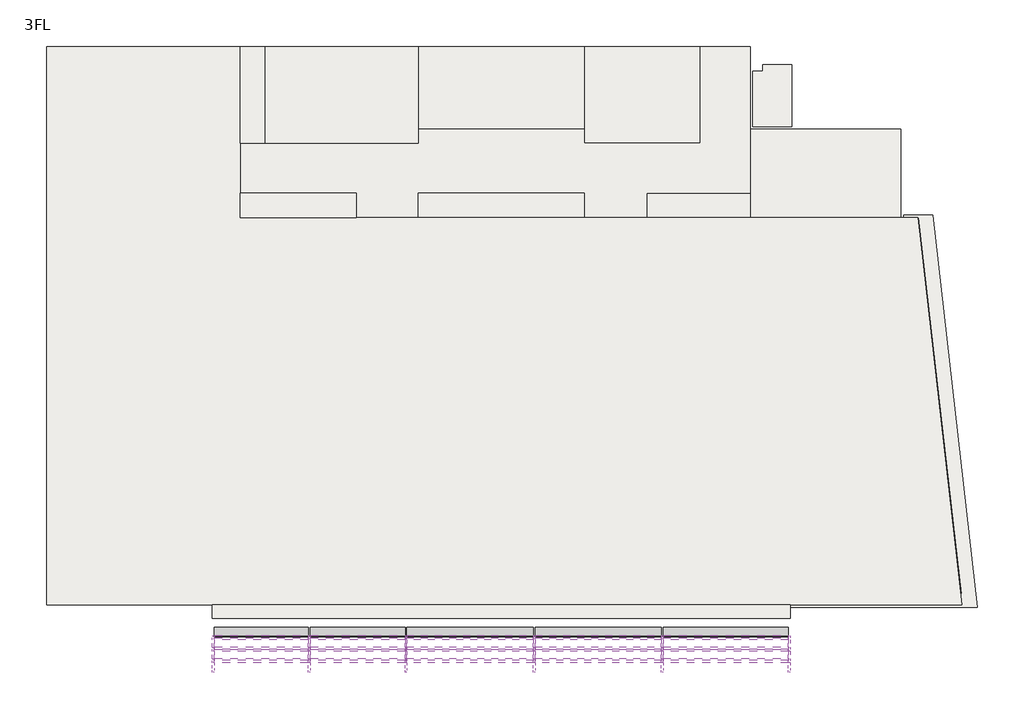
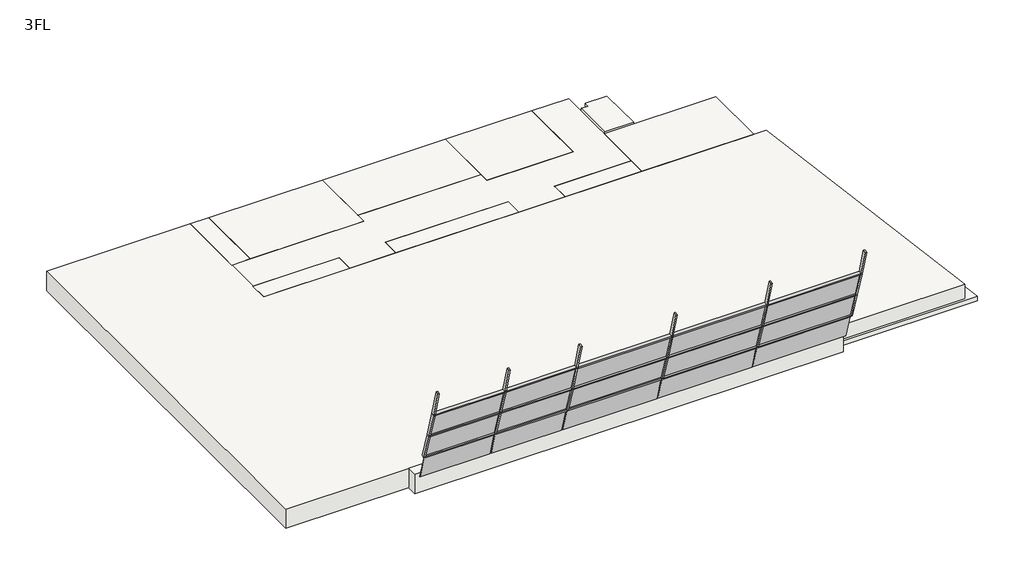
# One storey: 33 members, 15 plates, 13 slabs.
"""IFC4 building model written with IfcOpenShell, lengths in millimetres."""

from ifc_helpers import new_model, si_unit, frame, origin, place, context, project, spatial, polyline, outline, extrude, transform, mapped, element, save
from components import member_70x150_4d24a05e, member_70x150_d36ba8ce, member_70x150_5c89d520, member_70x150_7418113c, member_70x150_b238a0a5, member_70x150_db9f7753, member_70x150_c1e71303, member_70x150_36418c2b, member_70x150_2ddcd813, member_70x150_37ae0d1a, member_70x150_6c5de3ba, member_70x150_d2bbf5bb, member_70x150_c7beafc3, plate_c2116086, plate_b5ac0942, plate_1e6d37a2, plate_2c6e092e, plate_fbfa9490, plate_022f3ca5, plate_2dcaf8a6, plate_149d2ef8, plate_d77b17ee, plate_d9441ac2, plate_135fa1a3, plate_b12108fd

model = new_model("IFC4")

# Units and contexts
model_context = context("Model", 3, world=origin())
ifc_project = project(units=[si_unit("LENGTHUNIT", "METRE", prefix="MILLI")], contexts=[model_context])

# Site, building, storey
site = spatial("IfcSite", under=ifc_project)
building = spatial("IfcBuilding", under=site)
storey = spatial("IfcBuildingStorey", under=building, Name="3FL", Elevation=8600.0)

# Members
placement = place(None, origin())
member_70x150_shape = member_70x150_4d24a05e(model_context)
element("IfcMember", 1, ObjectType="長方形のマリオン : 70x150", at=placement, inside=storey, context=model_context, shape_type="MappedRepresentation", body=[
    mapped(member_70x150_shape, transform((-2015.9784025, -5575.0868522, 12600.0), x_axis=(0.0, -0.2812751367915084, 0.9596271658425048), y_axis=(0.0, -0.9596271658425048, -0.2812751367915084), z_axis=(1.0, 0.0, 0.0))),
])
element("IfcMember", 2, ObjectType="長方形のマリオン : 70x150", at=placement, inside=storey, context=model_context, shape_type="MappedRepresentation", body=[
    mapped(member_70x150_shape, transform((-2015.9784025, -5165.0327615, 11266.1765137), x_axis=(0.0, -0.3013501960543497, 0.9535135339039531), y_axis=(0.0, -0.9535135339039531, -0.3013501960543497), z_axis=(1.0, 0.0, 0.0))),
])
element("IfcMember", 3, ObjectType="長方形のマリオン : 70x150", at=placement, inside=storey, context=model_context, shape_type="MappedRepresentation", body=[
    mapped(member_70x150_shape, transform((-2015.9784025, -4747.2730575, 9932.5590727), x_axis=(0.0, -0.29152128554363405, 0.9565643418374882), y_axis=(0.0, -0.9565643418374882, -0.29152128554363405), z_axis=(1.0, 0.0, 0.0))),
])
member_70x150_2_shape = member_70x150_d36ba8ce(model_context)
element("IfcMember", 4, ObjectType="長方形のマリオン : 70x150", at=placement, inside=storey, context=model_context, shape_type="MappedRepresentation", body=[
    mapped(member_70x150_2_shape, transform((-19380.9784025, -5575.0868522, 12600.0), x_axis=(0.0, -0.28127513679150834, 0.9596271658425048), y_axis=(0.0, -0.9596271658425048, -0.28127513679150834), z_axis=(1.0, 0.0, 0.0))),
])
element("IfcMember", 5, ObjectType="長方形のマリオン : 70x150", at=placement, inside=storey, context=model_context, shape_type="MappedRepresentation", body=[
    mapped(member_70x150_2_shape, transform((-19380.9784025, -4747.2730575, 9932.5590727), x_axis=(0.0, -0.291521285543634, 0.9565643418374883), y_axis=(0.0, -0.9565643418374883, -0.291521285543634), z_axis=(1.0, 0.0, 0.0))),
])
element("IfcMember", 6, ObjectType="長方形のマリオン : 70x150", at=placement, inside=storey, context=model_context, shape_type="MappedRepresentation", body=[
    mapped(member_70x150_2_shape, transform((-19380.9784025, -5165.0327615, 11266.1765137), x_axis=(0.0, -0.30135019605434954, 0.9535135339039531), y_axis=(0.0, -0.9535135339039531, -0.30135019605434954), z_axis=(1.0, 0.0, 0.0))),
])
member_70x150_3_shape = member_70x150_5c89d520(model_context)
element("IfcMember", 7, ObjectType="長方形のマリオン : 70x150", at=placement, inside=storey, context=model_context, shape_type="MappedRepresentation", body=[
    mapped(member_70x150_3_shape, transform((-11247.6450692, -5575.0868522, 12600.0), x_axis=(0.0, -0.2812751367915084, 0.9596271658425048), y_axis=(0.0, -0.9596271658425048, -0.2812751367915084), z_axis=(1.0, 0.0, 0.0))),
])
element("IfcMember", 8, ObjectType="長方形のマリオン : 70x150", at=placement, inside=storey, context=model_context, shape_type="MappedRepresentation", body=[
    mapped(member_70x150_3_shape, transform((-6614.3117358, -5575.0868522, 12600.0), x_axis=(0.0, -0.2812751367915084, 0.9596271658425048), y_axis=(0.0, -0.9596271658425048, -0.2812751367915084), z_axis=(1.0, 0.0, 0.0))),
])
element("IfcMember", 9, ObjectType="長方形のマリオン : 70x150", at=placement, inside=storey, context=model_context, shape_type="MappedRepresentation", body=[
    mapped(member_70x150_3_shape, transform((-6614.3117358, -4747.2730575, 9932.5590727), x_axis=(0.0, -0.29152128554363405, 0.9565643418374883), y_axis=(0.0, -0.9565643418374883, -0.29152128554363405), z_axis=(1.0, 0.0, 0.0))),
])
element("IfcMember", 10, ObjectType="長方形のマリオン : 70x150", at=placement, inside=storey, context=model_context, shape_type="MappedRepresentation", body=[
    mapped(member_70x150_3_shape, transform((-11247.6450692, -4747.2730575, 9932.5590727), x_axis=(0.0, -0.29152128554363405, 0.9565643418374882), y_axis=(0.0, -0.9565643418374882, -0.29152128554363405), z_axis=(1.0, 0.0, 0.0))),
])
element("IfcMember", 11, ObjectType="長方形のマリオン : 70x150", at=placement, inside=storey, context=model_context, shape_type="MappedRepresentation", body=[
    mapped(member_70x150_3_shape, transform((-6614.3117358, -5165.0327615, 11266.1765137), x_axis=(0.0, -0.3013501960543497, 0.9535135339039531), y_axis=(0.0, -0.9535135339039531, -0.3013501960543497), z_axis=(1.0, 0.0, 0.0))),
])
element("IfcMember", 12, ObjectType="長方形のマリオン : 70x150", at=placement, inside=storey, context=model_context, shape_type="MappedRepresentation", body=[
    mapped(member_70x150_3_shape, transform((-11247.6450692, -5165.0327615, 11266.1765137), x_axis=(0.0, -0.30135019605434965, 0.9535135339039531), y_axis=(0.0, -0.9535135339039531, -0.30135019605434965), z_axis=(1.0, 0.0, 0.0))),
])
member_70x150_4_shape = member_70x150_7418113c(model_context)
element("IfcMember", 13, ObjectType="長方形のマリオン : 70x150", at=placement, inside=storey, context=model_context, shape_type="MappedRepresentation", body=[
    mapped(member_70x150_4_shape, transform((-15880.9784025, -5575.0868522, 12600.0), x_axis=(0.0, -0.28127513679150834, 0.9596271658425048), y_axis=(0.0, -0.9596271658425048, -0.28127513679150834), z_axis=(1.0, 0.0, 0.0))),
])
element("IfcMember", 14, ObjectType="長方形のマリオン : 70x150", at=placement, inside=storey, context=model_context, shape_type="MappedRepresentation", body=[
    mapped(member_70x150_4_shape, transform((-15880.9784025, -4747.2730575, 9932.5590727), x_axis=(0.0, -0.29152128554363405, 0.9565643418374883), y_axis=(0.0, -0.9565643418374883, -0.29152128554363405), z_axis=(1.0, 0.0, 0.0))),
])
element("IfcMember", 15, ObjectType="長方形のマリオン : 70x150", at=placement, inside=storey, context=model_context, shape_type="MappedRepresentation", body=[
    mapped(member_70x150_4_shape, transform((-15880.9784025, -5165.0327615, 11266.1765137), x_axis=(0.0, -0.30135019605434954, 0.9535135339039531), y_axis=(0.0, -0.9535135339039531, -0.30135019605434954), z_axis=(1.0, 0.0, 0.0))),
])
member_70x150_5_shape = member_70x150_b238a0a5(model_context)
element("IfcMember", 16, ObjectType="長方形のマリオン : 70x150", at=placement, inside=storey, context=model_context, shape_type="MappedRepresentation", body=[
    mapped(member_70x150_5_shape, transform((-15845.9784025, -5575.0868522, 12600.0), x_axis=(1.0, 0.0, 0.0), y_axis=(0.0, -0.9660766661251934, -0.2582554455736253), z_axis=(0.0, 0.2582554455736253, -0.9660766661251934))),
])
element("IfcMember", 17, ObjectType="長方形のマリオン : 70x150", at=placement, inside=storey, context=model_context, shape_type="MappedRepresentation", body=[
    mapped(member_70x150_5_shape, transform((-6579.3117358, -5575.0868522, 12600.0), x_axis=(1.0, 0.0, 0.0), y_axis=(0.0, -0.9660766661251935, -0.2582554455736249), z_axis=(0.0, 0.25825544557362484, -0.9660766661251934))),
])
element("IfcMember", 18, ObjectType="長方形のマリオン : 70x150", at=placement, inside=storey, context=model_context, shape_type="MappedRepresentation", body=[
    mapped(member_70x150_5_shape, transform((-11212.6450692, -5575.0868522, 12600.0), x_axis=(1.0, 0.0, 0.0), y_axis=(0.0, -0.9660766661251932, -0.258255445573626), z_axis=(0.0, 0.258255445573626, -0.9660766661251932))),
])
element("IfcMember", 19, ObjectType="長方形のマリオン : 70x150", at=placement, inside=storey, context=model_context, shape_type="MappedRepresentation", body=[
    mapped(member_70x150_5_shape, transform((-19345.9784025, -5575.0868522, 12600.0), x_axis=(1.0, 0.0, 0.0), y_axis=(0.0, -0.9660766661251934, -0.2582554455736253), z_axis=(0.0, 0.2582554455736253, -0.9660766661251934))),
])
member_70x150_6_shape = member_70x150_db9f7753(model_context)
element("IfcMember", 20, ObjectType="長方形のマリオン : 70x150", at=placement, inside=storey, context=model_context, shape_type="MappedRepresentation", body=[
    mapped(member_70x150_6_shape, transform((-1945.9784025, -4747.2730575, 9932.5590727), x_axis=(1.0, 0.0, 0.0), y_axis=(0.0, -0.9542751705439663, -0.2989295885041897), z_axis=(0.0, 0.29892958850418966, -0.9542751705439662))),
])
member_70x150_7_shape = member_70x150_c1e71303(model_context)
element("IfcMember", 21, ObjectType="長方形のマリオン : 70x150", at=placement, inside=storey, context=model_context, shape_type="MappedRepresentation", body=[
    mapped(member_70x150_7_shape, transform((-1945.9784025, -5165.0327615, 11266.1765137), x_axis=(1.0, 0.0, 0.0), y_axis=(0.0, -0.9558501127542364, -0.29385466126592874), z_axis=(0.0, 0.2938546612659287, -0.9558501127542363))),
])
member_70x150_8_shape = member_70x150_36418c2b(model_context)
element("IfcMember", 22, ObjectType="長方形のマリオン : 70x150", at=placement, inside=storey, context=model_context, shape_type="MappedRepresentation", body=[
    mapped(member_70x150_8_shape, transform((-22845.9784025, -5575.0868522, 12600.0), x_axis=(-1.0, 0.0, 0.0), y_axis=(0.0, -0.9558501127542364, -0.29385466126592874), z_axis=(0.0, -0.2938546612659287, 0.9558501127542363))),
])
member_70x150_9_shape = member_70x150_2ddcd813(model_context)
element("IfcMember", 23, ObjectType="長方形のマリオン : 70x150", at=placement, inside=storey, context=model_context, shape_type="MappedRepresentation", body=[
    mapped(member_70x150_9_shape, transform((-1945.9784025, -5575.0868522, 12600.0), x_axis=(1.0, 0.0, 0.0), y_axis=(0.0, -0.9660766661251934, -0.2582554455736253), z_axis=(0.0, 0.2582554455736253, -0.9660766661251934))),
])
member_70x150_10_shape = member_70x150_37ae0d1a(model_context)
element("IfcMember", 24, ObjectType="長方形のマリオン : 70x150", at=placement, inside=storey, context=model_context, shape_type="MappedRepresentation", body=[
    mapped(member_70x150_10_shape, transform((-22845.9784025, -5165.0327615, 11266.1765137), x_axis=(-1.0, 0.0, 0.0), y_axis=(0.0, -0.9542751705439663, -0.2989295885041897), z_axis=(0.0, -0.29892958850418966, 0.9542751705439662))),
])
member_70x150_11_shape = member_70x150_6c5de3ba(model_context)
element("IfcMember", 25, ObjectType="長方形のマリオン : 70x150", at=placement, inside=storey, context=model_context, shape_type="MappedRepresentation", body=[
    mapped(member_70x150_11_shape, transform((-22845.9784025, -5931.9972221, 13935.1229806), x_axis=(-1.0, 0.0, 0.0), y_axis=(0.0, -0.9660766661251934, -0.2582554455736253), z_axis=(0.0, -0.2582554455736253, 0.9660766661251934))),
])
member_70x150_12_shape = member_70x150_d2bbf5bb(model_context)
element("IfcMember", 26, ObjectType="長方形のマリオン : 70x150", at=placement, inside=storey, context=model_context, shape_type="MappedRepresentation", body=[
    mapped(member_70x150_12_shape, transform((-6579.3117358, -4747.2730575, 9932.5590727), x_axis=(1.0, 0.0, 0.0), y_axis=(0.0, -0.9542751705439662, -0.29892958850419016), z_axis=(0.0, 0.2989295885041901, -0.954275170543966))),
])
element("IfcMember", 27, ObjectType="長方形のマリオン : 70x150", at=placement, inside=storey, context=model_context, shape_type="MappedRepresentation", body=[
    mapped(member_70x150_12_shape, transform((-11212.6450692, -4747.2730575, 9932.5590727), x_axis=(1.0, 0.0, 0.0), y_axis=(0.0, -0.9542751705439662, -0.29892958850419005), z_axis=(0.0, 0.29892958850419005, -0.9542751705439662))),
])
element("IfcMember", 28, ObjectType="長方形のマリオン : 70x150", at=placement, inside=storey, context=model_context, shape_type="MappedRepresentation", body=[
    mapped(member_70x150_12_shape, transform((-19345.9784025, -4747.2730575, 9932.5590727), x_axis=(1.0, 0.0, 0.0), y_axis=(0.0, -0.9542751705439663, -0.2989295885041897), z_axis=(0.0, 0.29892958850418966, -0.9542751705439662))),
])
element("IfcMember", 29, ObjectType="長方形のマリオン : 70x150", at=placement, inside=storey, context=model_context, shape_type="MappedRepresentation", body=[
    mapped(member_70x150_12_shape, transform((-15845.9784025, -4747.2730575, 9932.5590727), x_axis=(1.0, 0.0, 0.0), y_axis=(0.0, -0.9542751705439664, -0.2989295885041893), z_axis=(0.0, 0.2989295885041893, -0.9542751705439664))),
])
member_70x150_13_shape = member_70x150_c7beafc3(model_context)
element("IfcMember", 30, ObjectType="長方形のマリオン : 70x150", at=placement, inside=storey, context=model_context, shape_type="MappedRepresentation", body=[
    mapped(member_70x150_13_shape, transform((-6579.3117358, -5165.0327615, 11266.1765137), x_axis=(1.0, 0.0, 0.0), y_axis=(0.0, -0.9558501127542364, -0.29385466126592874), z_axis=(0.0, 0.2938546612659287, -0.9558501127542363))),
])
element("IfcMember", 31, ObjectType="長方形のマリオン : 70x150", at=placement, inside=storey, context=model_context, shape_type="MappedRepresentation", body=[
    mapped(member_70x150_13_shape, transform((-11212.6450692, -5165.0327615, 11266.1765137), x_axis=(1.0, 0.0, 0.0), y_axis=(0.0, -0.9558501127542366, -0.293854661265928), z_axis=(0.0, 0.293854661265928, -0.9558501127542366))),
])
element("IfcMember", 32, ObjectType="長方形のマリオン : 70x150", at=placement, inside=storey, context=model_context, shape_type="MappedRepresentation", body=[
    mapped(member_70x150_13_shape, transform((-19345.9784025, -5165.0327615, 11266.1765137), x_axis=(1.0, 0.0, 0.0), y_axis=(0.0, -0.9558501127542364, -0.29385466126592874), z_axis=(0.0, 0.2938546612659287, -0.9558501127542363))),
])
element("IfcMember", 33, ObjectType="長方形のマリオン : 70x150", at=placement, inside=storey, context=model_context, shape_type="MappedRepresentation", body=[
    mapped(member_70x150_13_shape, transform((-15845.9784025, -5165.0327615, 11266.1765137), x_axis=(1.0, 0.0, 0.0), y_axis=(0.0, -0.9558501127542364, -0.29385466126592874), z_axis=(0.0, 0.2938546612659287, -0.9558501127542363))),
])

# Plates
plate_shape = plate_c2116086(model_context)
element("IfcPlate", 34, ObjectType="システム パネル : 標準", at=placement, inside=storey, context=model_context, shape_type="MappedRepresentation", body=[
    mapped(plate_shape, transform((-21078.4784025, -4377.2928251, 8633.6610864), x_axis=(1.0, 0.0, 0.0), y_axis=(0.0, 0.9617453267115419, 0.2739451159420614), z_axis=(0.0, -0.2739451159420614, 0.9617453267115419))),
])
plate_2_shape = plate_b5ac0942(model_context)
element("IfcPlate", 35, ObjectType="システム パネル : 標準", at=placement, inside=storey, context=model_context, shape_type="MappedRepresentation", body=[
    mapped(plate_2_shape, transform((-21078.4784025, -5175.3176747, 11299.6312676), x_axis=(1.0, 0.0, 0.0), y_axis=(0.0, 0.9558501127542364, 0.2938546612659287), z_axis=(0.0, -0.2938546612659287, 0.9558501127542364))),
])
plate_3_shape = plate_1e6d37a2(model_context)
element("IfcPlate", 36, ObjectType="システム パネル : 標準", at=placement, inside=storey, context=model_context, shape_type="MappedRepresentation", body=[
    mapped(plate_3_shape, transform((-21078.4784025, -4757.7355931, 9965.9587037), x_axis=(1.0, 0.0, 0.0), y_axis=(0.0, 0.9542751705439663, 0.2989295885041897), z_axis=(0.0, -0.2989295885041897, 0.9542751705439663))),
])
plate_4_shape = plate_2c6e092e(model_context)
element("IfcPlate", 37, ObjectType="システム パネル : 標準", at=placement, inside=storey, context=model_context, shape_type="MappedRepresentation", body=[
    mapped(plate_4_shape, transform((-13529.3117358, -4377.2928251, 8633.6610864), x_axis=(1.0, 0.0, 0.0), y_axis=(0.0, 0.961745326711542, 0.27394511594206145), z_axis=(0.0, -0.27394511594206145, 0.961745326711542))),
])
element("IfcPlate", 38, ObjectType="システム パネル : 標準", at=placement, inside=storey, context=model_context, shape_type="MappedRepresentation", body=[
    mapped(plate_4_shape, transform((-8895.9784025, -4377.2928251, 8633.6610864), x_axis=(1.0, 0.0, 0.0), y_axis=(0.0, 0.961745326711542, 0.2739451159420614), z_axis=(0.0, -0.2739451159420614, 0.961745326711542))),
])
plate_5_shape = plate_fbfa9490(model_context)
element("IfcPlate", 39, ObjectType="システム パネル : 標準", at=placement, inside=storey, context=model_context, shape_type="MappedRepresentation", body=[
    mapped(plate_5_shape, transform((-13529.3117358, -4757.7355931, 9965.9587037), x_axis=(1.0, 0.0, 0.0), y_axis=(0.0, 0.9542751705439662, 0.2989295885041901), z_axis=(0.0, -0.2989295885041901, 0.9542751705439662))),
])
element("IfcPlate", 40, ObjectType="システム パネル : 標準", at=placement, inside=storey, context=model_context, shape_type="MappedRepresentation", body=[
    mapped(plate_5_shape, transform((-8895.9784025, -4757.7355931, 9965.9587037), x_axis=(1.0, 0.0, 0.0), y_axis=(0.0, 0.9542751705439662, 0.2989295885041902), z_axis=(0.0, -0.2989295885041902, 0.9542751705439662))),
])
plate_6_shape = plate_022f3ca5(model_context)
element("IfcPlate", 41, ObjectType="システム パネル : 標準", at=placement, inside=storey, context=model_context, shape_type="MappedRepresentation", body=[
    mapped(plate_6_shape, transform((-13529.3117358, -5175.3176747, 11299.6312676), x_axis=(1.0, 0.0, 0.0), y_axis=(0.0, 0.9558501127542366, 0.293854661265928), z_axis=(0.0, -0.293854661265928, 0.9558501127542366))),
])
element("IfcPlate", 42, ObjectType="システム パネル : 標準", at=placement, inside=storey, context=model_context, shape_type="MappedRepresentation", body=[
    mapped(plate_6_shape, transform((-8895.9784025, -5175.3176747, 11299.6312676), x_axis=(1.0, 0.0, 0.0), y_axis=(0.0, 0.9558501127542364, 0.2938546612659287), z_axis=(0.0, -0.2938546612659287, 0.9558501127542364))),
])
plate_7_shape = plate_2dcaf8a6(model_context)
element("IfcPlate", 43, ObjectType="システム パネル : 標準", at=placement, inside=storey, context=model_context, shape_type="MappedRepresentation", body=[
    mapped(plate_7_shape, transform((-17595.9784025, -4377.2928251, 8633.6610864), x_axis=(1.0, 0.0, 0.0), y_axis=(0.0, 0.9617453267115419, 0.2739451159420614), z_axis=(0.0, -0.2739451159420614, 0.9617453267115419))),
])
plate_8_shape = plate_149d2ef8(model_context)
element("IfcPlate", 44, ObjectType="システム パネル : 標準", at=placement, inside=storey, context=model_context, shape_type="MappedRepresentation", body=[
    mapped(plate_8_shape, transform((-17595.9784025, -4757.7355931, 9965.9587037), x_axis=(1.0, 0.0, 0.0), y_axis=(0.0, 0.9542751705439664, 0.2989295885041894), z_axis=(0.0, -0.2989295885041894, 0.9542751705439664))),
])
plate_9_shape = plate_d77b17ee(model_context)
element("IfcPlate", 45, ObjectType="システム パネル : 標準", at=placement, inside=storey, context=model_context, shape_type="MappedRepresentation", body=[
    mapped(plate_9_shape, transform((-17595.9784025, -5175.3176747, 11299.6312676), x_axis=(1.0, 0.0, 0.0), y_axis=(0.0, 0.9558501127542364, 0.29385466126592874), z_axis=(0.0, -0.29385466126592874, 0.9558501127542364))),
])
plate_10_shape = plate_d9441ac2(model_context)
element("IfcPlate", 46, ObjectType="システム パネル : 標準", at=placement, inside=storey, context=model_context, shape_type="MappedRepresentation", body=[
    mapped(plate_10_shape, transform((-4280.1450692, -4377.2928251, 8633.6610864), x_axis=(1.0, 0.0, 0.0), y_axis=(0.0, 0.9617453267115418, 0.2739451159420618), z_axis=(0.0, -0.2739451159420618, 0.9617453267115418))),
])
plate_11_shape = plate_135fa1a3(model_context)
element("IfcPlate", 47, ObjectType="システム パネル : 標準", at=placement, inside=storey, context=model_context, shape_type="MappedRepresentation", body=[
    mapped(plate_11_shape, transform((-4280.1450692, -4757.7355931, 9965.9587037), x_axis=(1.0, 0.0, 0.0), y_axis=(0.0, 0.9542751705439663, 0.29892958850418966), z_axis=(0.0, -0.29892958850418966, 0.9542751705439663))),
])
plate_12_shape = plate_b12108fd(model_context)
element("IfcPlate", 48, ObjectType="システム パネル : 標準", at=placement, inside=storey, context=model_context, shape_type="MappedRepresentation", body=[
    mapped(plate_12_shape, transform((-4280.1450692, -5175.3176747, 11299.6312676), x_axis=(1.0, 0.0, 0.0), y_axis=(0.0, 0.9558501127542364, 0.2938546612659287), z_axis=(0.0, -0.2938546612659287, 0.9558501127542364))),
])

# Slabs
element("IfcSlab", 49, ObjectType="企画1000", at=placement, inside=storey, context=model_context, shape_type="SweptSolid", body=[
    extrude(outline(polyline([(-17645.9784025, 11349.6868987), (-17645.9784025, 10449.6868987), (-21845.9784025, 10449.6868987), (-21845.9784025, 11349.6868987), (-17645.9784025, 11349.6868987)])), frame((0.0, 0.0, 7600.0), z_axis=(0.0, 0.0, 1.0), x_axis=(1.0, 0.0, 0.0)), (0.0, 0.0, 1.0), 1000.0),
])
element("IfcSlab", 50, ObjectType="企画1000", at=placement, inside=storey, context=model_context, shape_type="SweptSolid", body=[
    extrude(outline(polyline([(-20945.9784025, 16649.6868987), (-20945.9784025, 13149.6868987), (-21845.9784025, 13149.6868987), (-21845.9784025, 16649.6868987), (-20945.9784025, 16649.6868987)])), frame((0.0, 0.0, 7600.0), z_axis=(0.0, 0.0, 1.0), x_axis=(1.0, 0.0, 0.0)), (0.0, 0.0, 1.0), 1000.0),
])
element("IfcSlab", 51, ObjectType="企画1000", at=placement, inside=storey, context=model_context, shape_type="SweptSolid", body=[
    extrude(outline(polyline([(-9395.9784025, 16649.6868987), (-9395.9784025, 13649.6868987), (-15395.9784025, 13649.6868987), (-15395.9784025, 16649.6868987), (-9395.9784025, 16649.6868987)])), frame((0.0, 0.0, 7600.0), z_axis=(0.0, 0.0, 1.0), x_axis=(1.0, 0.0, 0.0)), (0.0, 0.0, 1.0), 1000.0),
])
element("IfcSlab", 52, ObjectType="企画1000", at=placement, inside=storey, context=model_context, shape_type="SweptSolid", body=[
    extrude(outline(polyline([(-28845.9784025, -3550.3131013), (-28845.9784025, 16649.6868987), (-21845.9784025, 16649.6868987), (-21845.9784025, 10449.6868987), (2661.9595949, 10449.6868987), (4261.9595949, -3550.3131013), (-28845.9784025, -3550.3131013)])), frame((0.0, 0.0, 7600.0), z_axis=(0.0, 0.0, 1.0), x_axis=(1.0, 0.0, 0.0)), (0.0, 0.0, 1.0), 1000.0),
])
element("IfcSlab", 53, ObjectType="企画1000", at=placement, inside=storey, context=model_context, shape_type="SweptSolid", body=[
    extrude(outline(polyline([(-9395.9784025, 11349.6868987), (-9395.9784025, 10449.6868987), (-15395.9784025, 10449.6868987), (-15395.9784025, 11349.6868987), (-9395.9784025, 11349.6868987)])), frame((0.0, 0.0, 7600.0), z_axis=(0.0, 0.0, 1.0), x_axis=(1.0, 0.0, 0.0)), (0.0, 0.0, 1.0), 1000.0),
])
element("IfcSlab", 54, ObjectType="企画1000", at=placement, inside=storey, context=model_context, shape_type="SweptSolid", body=[
    extrude(outline(polyline([(2054.0215975, 13649.6868987), (2054.0215975, 10449.6868987), (-3395.9784025, 10449.6868987), (-3395.9784025, 13649.6868987), (2054.0215975, 13649.6868987)])), frame((0.0, 0.0, 7600.0), z_axis=(0.0, 0.0, 1.0), x_axis=(1.0, 0.0, 0.0)), (0.0, 0.0, 1.0), 1000.0),
])
element("IfcSlab", 55, ObjectType="企画1000", at=placement, inside=storey, context=model_context, shape_type="SweptSolid", body=[
    extrude(outline(polyline([(-15395.9784025, 13149.6868987), (-15395.9784025, 13649.6868987), (-9395.9784025, 13649.6868987), (-9395.9784025, 13149.6868987), (-5195.9784025, 13149.6868987), (-5195.9784025, 16649.6868987), (-3395.9784025, 16649.6868987), (-3395.9784025, 11349.6868987), (-7145.9784025, 11349.6868987), (-7145.9784025, 10449.6868987), (-9395.9784025, 10449.6868987), (-9395.9784025, 11349.6868987), (-15395.9784025, 11349.6868987), (-15395.9784025, 10449.6868987), (-17645.9784025, 10449.6868987), (-17645.9784025, 11349.6868987), (-21845.9784025, 11349.6868987), (-21845.9784025, 13149.6868987), (-15395.9784025, 13149.6868987)])), frame((0.0, 0.0, 7600.0), z_axis=(0.0, 0.0, 1.0), x_axis=(1.0, 0.0, 0.0)), (0.0, 0.0, 1.0), 1000.0),
])
element("IfcSlab", 56, ObjectType="企画1000", at=placement, inside=storey, context=model_context, shape_type="SweptSolid", body=[
    extrude(outline(polyline([(-15395.9784025, 16649.6868987), (-15395.9784025, 13149.6868987), (-20945.9784025, 13149.6868987), (-20945.9784025, 16649.6868987), (-15395.9784025, 16649.6868987)])), frame((0.0, 0.0, 7600.0), z_axis=(0.0, 0.0, 1.0), x_axis=(1.0, 0.0, 0.0)), (0.0, 0.0, 1.0), 1000.0),
])
element("IfcSlab", 57, ObjectType="企画1000", at=placement, inside=storey, context=model_context, shape_type="SweptSolid", body=[
    extrude(outline(polyline([(-5195.9784025, 16649.6868987), (-5195.9784025, 13149.6868987), (-9395.9784025, 13149.6868987), (-9395.9784025, 16649.6868987), (-5195.9784025, 16649.6868987)])), frame((0.0, 0.0, 7600.0), z_axis=(0.0, 0.0, 1.0), x_axis=(1.0, 0.0, 0.0)), (0.0, 0.0, 1.0), 1000.0),
])
element("IfcSlab", 58, ObjectType="企画1000", at=placement, inside=storey, context=model_context, shape_type="SweptSolid", body=[
    extrude(outline(polyline([(-3395.9784025, 11349.6868987), (-3395.9784025, 10449.6868987), (-7145.9784025, 10449.6868987), (-7145.9784025, 11349.6868987), (-3395.9784025, 11349.6868987)])), frame((0.0, 0.0, 7600.0), z_axis=(0.0, 0.0, 1.0), x_axis=(1.0, 0.0, 0.0)), (0.0, 0.0, 1.0), 1000.0),
])
element("IfcSlab", 59, ObjectType="企画1000", at=placement, inside=storey, context=model_context, shape_type="SweptSolid", body=[
    extrude(outline(polyline([(-1945.9784025, -3550.3131013), (-1945.9784025, -4050.3131013), (-22845.9784025, -4050.3131013), (-22845.9784025, -3550.3131013), (-1945.9784025, -3550.3131013)])), frame((0.0, 0.0, 7600.0), z_axis=(0.0, 0.0, 1.0), x_axis=(1.0, 0.0, 0.0)), (0.0, 0.0, 1.0), 1000.0),
])
element("IfcSlab", 60, ObjectType="RC250", at=placement, inside=storey, context=model_context, shape_type="SweptSolid", body=[
    extrude(outline(polyline([(-2945.9784025, 15999.6868987), (-1895.9784025, 15999.6868987), (-1895.9784025, 13749.6868987), (-3295.9784025, 13749.6868987), (-3295.9784025, 15749.6868987), (-2945.9784025, 15749.6868987), (-2945.9784025, 15999.6868987)])), frame((0.0, 0.0, 8350.0), z_axis=(0.0, 0.0, 1.0), x_axis=(1.0, 0.0, 0.0)), (0.0, 0.0, 1.0), 250.0),
])
element("IfcSlab", 61, ObjectType="RC250", at=placement, inside=storey, context=model_context, shape_type="SweptSolid", body=[
    extrude(outline(polyline([(4822.357165, -3650.3131013), (-1945.9784025, -3650.3131013), (-1945.9784025, -3150.3131013), (4261.9595949, -3150.3131013), (2707.6738806, 10449.6868987), (2154.0215975, 10449.6868987), (2154.0215975, 10549.6868987), (3199.5000221, 10549.6868987), (4822.357165, -3650.3131013)])), frame((0.0, 0.0, 7600.0), z_axis=(0.0, 0.0, 1.0), x_axis=(1.0, 0.0, 0.0)), (0.0, 0.0, 1.0), 250.0),
])

save(model, "model.ifc")
